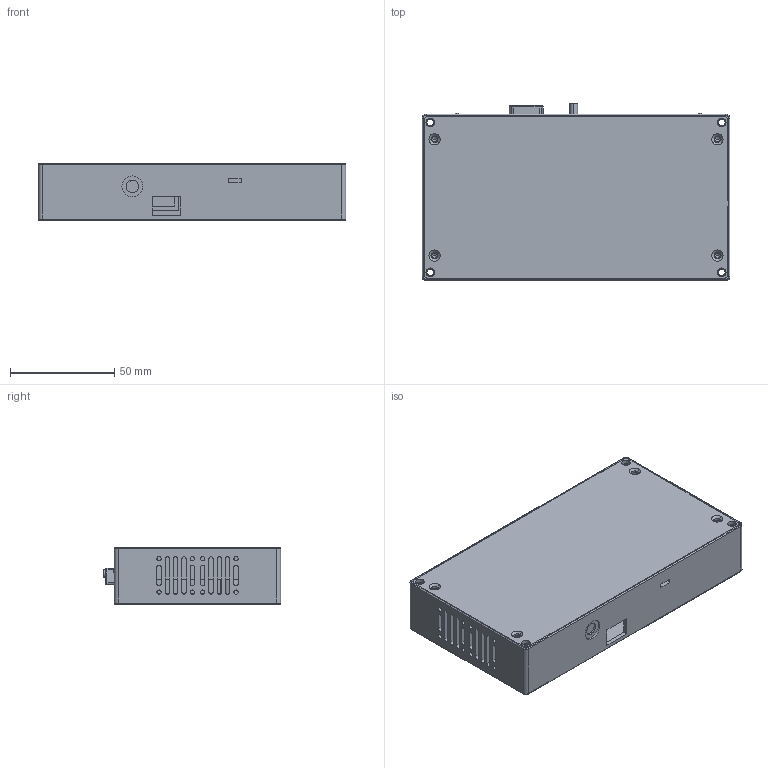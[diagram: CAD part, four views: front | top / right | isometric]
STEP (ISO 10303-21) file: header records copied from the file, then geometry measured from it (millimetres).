
FILE_DESCRIPTION (( 'STEP AP214' ), '1' );
FILE_NAME ('E53.D1S蚾饜极2020.10.23紱釬.STEP', '2021-06-02T00:33:53', ( 'Micorosoft' ), ( 'Micorosoft' ), 'SwSTEP 2.0', 'SolidWorks 2016', '' );
FILE_SCHEMA (( 'AUTOMOTIVE_DESIGN' ));
Length unit declared in the file: millimetre
Products named in the file (1): E53.D1S蚾饜极2020.10.23紱釬
Bounding box: 148 x 85.3 x 27.5 mm (x, y, z)
Volume: 223238.1 mm3; surface area: 80803.2 mm2
Topology: 3 solids, 3 shells, 566 faces, 1537 edges, 997 vertices
Faces by surface type: plane 268, cylinder 262, bspline 18, cone 18
Entity records: 21932 total; most frequent: CARTESIAN_POINT 4863, DIRECTION 3131, ORIENTED_EDGE 3046, EDGE_CURVE 1523, AXIS2_PLACEMENT_3D 1087, VERTEX_POINT 997, LINE 957, VECTOR 957
